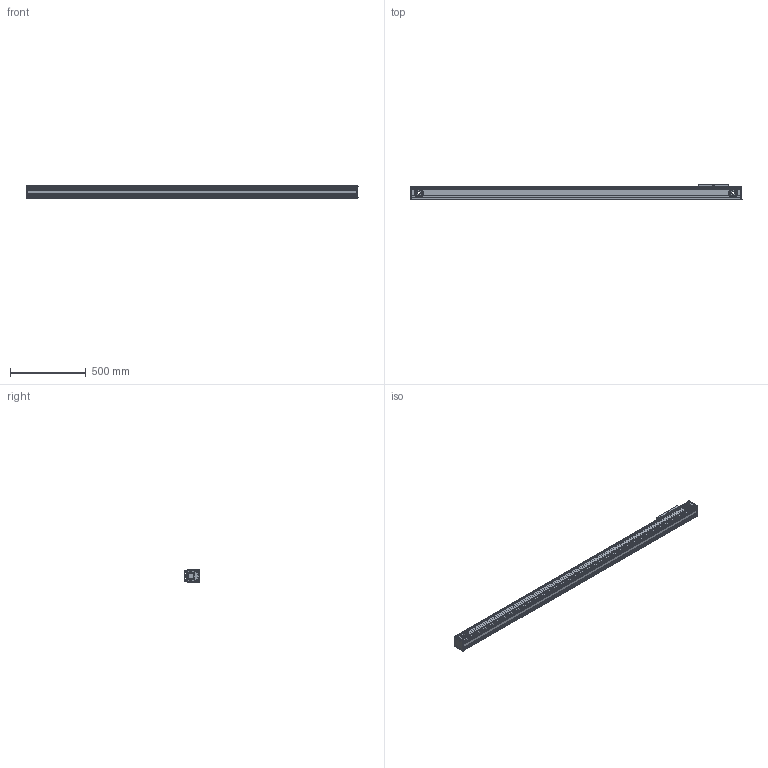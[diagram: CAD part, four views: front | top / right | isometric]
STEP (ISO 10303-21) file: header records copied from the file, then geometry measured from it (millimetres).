
FILE_DESCRIPTION (( 'STEP AP214' ), '1' );
FILE_NAME ('TKR80-1800A1-F0-R3-高速内滚轮直线模组.step', '2025-10-10T03:27:22', ( '' ), ( '' ), 'SwSTEP 2.0', 'SolidWorks 2024', '' );
FILE_SCHEMA (( 'AUTOMOTIVE_DESIGN' ));
Length unit declared in the file: millimetre
Products named in the file (3): TKR80-1800A1-F0-R3-高速内滚轮直线模组; TKR80-R3-02; TKR80-1800-R3-01
Assembly tree (2 placements, depth 2):
  TKR80-1800A1-F0-R3-高速内滚轮直线模组
    TKR80-1800-R3-01
    TKR80-R3-02
Bounding box: 2186 x 100 x 87 mm (x, y, z)
Volume: 6389741.4 mm3; surface area: 2501722.6 mm2
Topology: 1 solids, 52 shells, 2499 faces, 6775 edges, 4338 vertices
Faces by surface type: cylinder 1279, plane 770, torus 244, cone 182, sphere 24
Entity records: 120687 total; most frequent: CARTESIAN_POINT 31465, ORIENTED_EDGE 13382, DIRECTION 13179, EDGE_CURVE 6731, AXIS2_PLACEMENT_3D 5137, VERTEX_POINT 4338, VECTOR 2905, LINE 2905
